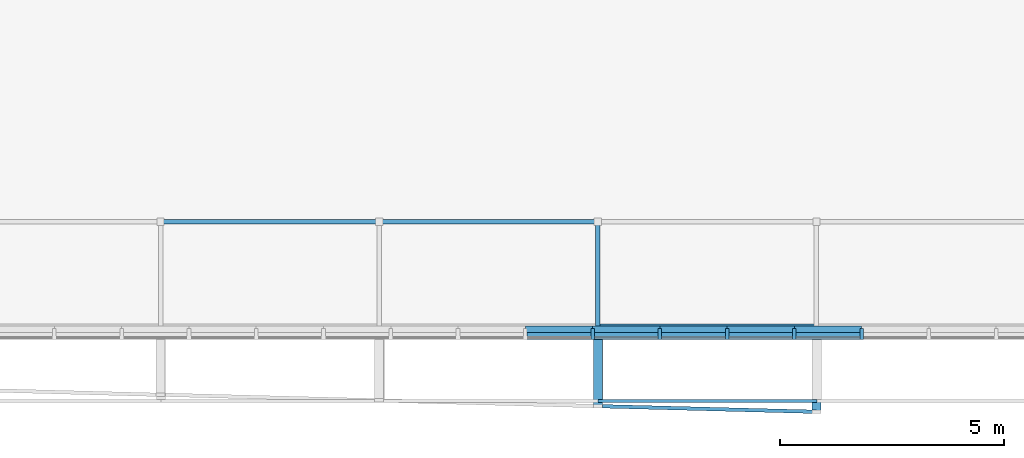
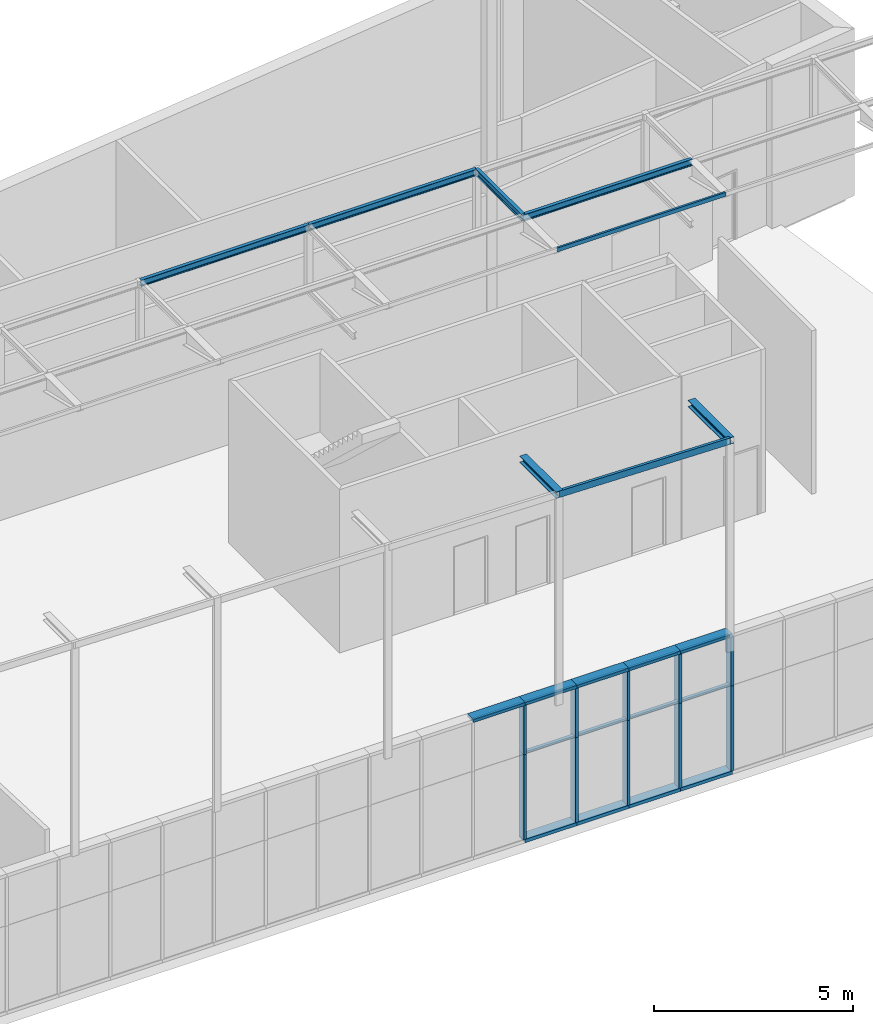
# One storey, part 13 of 40: 28 members, 8 beams, 1 element without a shape of its own.
"""IFC2X3 building model written with IfcOpenShell, lengths in metres."""

from ifc_helpers import new_model, entity, si_unit, converted_unit, money_unit, point, direction, frame, frame_2d, origin_with_axes, place, context, subcontext, project, spatial, polyline, circle_curve, parameter, trimmed, segment, composite_curve, outline, extrude, material, type_object, element, aggregate, save


model = new_model("IFC2X3")

# Units and contexts
model_context = context("Model", 3, precision=1e-05, world=origin_with_axes(), true_north=direction((0.0, 1.0)))
body_context = subcontext(model_context, "Body", "Model", "MODEL_VIEW")
ifc_project = project(units=[si_unit("LENGTHUNIT", "METRE"), si_unit("AREAUNIT", "SQUARE_METRE"), si_unit("VOLUMEUNIT", "CUBIC_METRE"), converted_unit("PLANEANGLEUNIT", "DEGREE", entity("IfcPlaneAngleMeasure", 0.0174532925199), si_unit("PLANEANGLEUNIT", "RADIAN"), dimensions=[0, 0, 0, 0, 0, 0, 0]), si_unit("SOLIDANGLEUNIT", "STERADIAN"), money_unit("EUR"), converted_unit("TIMEUNIT", "Year", entity("IfcTimeMeasure", 31556926.0), si_unit("TIMEUNIT", "SECOND"), dimensions=[0, 0, 0, 0, 0, 0, 0]), si_unit("MASSUNIT", "GRAM"), si_unit("THERMODYNAMICTEMPERATUREUNIT", "DEGREE_CELSIUS"), si_unit("LUMINOUSINTENSITYUNIT", "LUMEN")], contexts=[model_context])

# Site, building, storey
site_placement = place(None, origin_with_axes())
site = spatial("IfcSite", under=ifc_project, at=site_placement, Name="Undefined", CompositionType="ELEMENT")
building_placement = place(site_placement, origin_with_axes())
building = spatial("IfcBuilding", under=site, at=building_placement, Name="Undefined", CompositionType="ELEMENT")
storey_placement = place(building_placement, origin_with_axes())
storey = spatial("IfcBuildingStorey", under=building, at=storey_placement, Name="Rez de chauss\x8ee", CompositionType="ELEMENT", Elevation=0.0)

# Beams
ifc_material_1 = material(Name="STEEL/S235JRG2 3386696625")
beam_type_1 = type_object("IfcBeamType", Name="IPE200", PredefinedType="NOTDEFINED")
beam_1_placement = place(storey_placement, frame((37.3499991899, 2.32500000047, 19.025), z_axis=(0.0, 0.0, 1.0), x_axis=(0.0, -1.0, 0.0)))
element("IfcBeam", 1, at=beam_1_placement, inside=storey, type_object=beam_type_1, material=ifc_material_1, Name="Poutre", ObjectType="BEAM", context=body_context, shape_type="SweptSolid", body=[
    extrude(outline(composite_curve([segment(polyline([(0.05, -0.1), (0.05, -0.0915), (0.0147999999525, -0.0915)]), True, "CONTINUOUS"), segment(trimmed(circle_curve(frame_2d((0.0147999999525, -0.0795), x_axis=(-1.0, 0.0)), 0.012), [point((0.0147999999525, -0.0915)), parameter(90.0)], [point((0.0027999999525, -0.0795)), parameter(0.0)], False, "CARTESIAN"), True, "CONTINUOUS"), segment(polyline([(0.0027999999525, -0.0795), (0.0027999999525, 0.0795)]), True, "CONTINUOUS"), segment(trimmed(circle_curve(frame_2d((0.0147999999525, 0.0795), x_axis=(0.0, 1.0)), 0.012), [point((0.0027999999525, 0.0795)), parameter(90.0)], [point((0.0147999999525, 0.0915)), parameter(0.0)], False, "CARTESIAN"), True, "CONTINUOUS"), segment(polyline([(0.0147999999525, 0.0915), (0.05, 0.0915), (0.05, 0.1), (-0.05, 0.1), (-0.05, 0.0915), (-0.0147999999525, 0.0915)]), True, "CONTINUOUS"), segment(trimmed(circle_curve(frame_2d((-0.0147999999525, 0.0795), x_axis=(1.0, 0.0)), 0.012), [point((-0.0147999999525, 0.0915)), parameter(90.0)], [point((-0.0027999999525, 0.0795)), parameter(0.0)], False, "CARTESIAN"), True, "CONTINUOUS"), segment(polyline([(-0.0027999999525, 0.0795), (-0.0027999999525, -0.0795)]), True, "CONTINUOUS"), segment(trimmed(circle_curve(frame_2d((-0.0147999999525, -0.0795), x_axis=(0.0, -1.0)), 0.012), [point((-0.0027999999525, -0.0795)), parameter(90.0)], [point((-0.0147999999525, -0.0915)), parameter(0.0)], False, "CARTESIAN"), True, "CONTINUOUS"), segment(polyline([(-0.0147999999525, -0.0915), (-0.05, -0.0915), (-0.05, -0.1), (0.05, -0.1)]), True, "CONTINUOUS")], self_intersect=False)), frame((0.0, 4.87500081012, 0.0), z_axis=(0.0, -1.0, 0.0), x_axis=(1.0, 0.0, 0.0)), (0.0, 0.0, 1.0), 4.87500081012),
])
beam_2_placement = place(storey_placement, frame((47.0999995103, -1.01866231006e-08, 19.0250002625), z_axis=(0.0, 0.0, 1.0), x_axis=(1.0, 0.0, 0.0)))
element("IfcBeam", 2, at=beam_2_placement, inside=storey, type_object=beam_type_1, material=ifc_material_1, Name="Poutre", ObjectType="BEAM", context=body_context, shape_type="SweptSolid", body=[
    extrude(outline(composite_curve([segment(polyline([(0.05, -0.1), (0.05, -0.0915), (0.0147999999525, -0.0915)]), True, "CONTINUOUS"), segment(trimmed(circle_curve(frame_2d((0.0147999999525, -0.0795), x_axis=(-1.0, 0.0)), 0.012), [point((0.0147999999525, -0.0915)), parameter(90.0)], [point((0.0027999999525, -0.0795)), parameter(0.0)], False, "CARTESIAN"), True, "CONTINUOUS"), segment(polyline([(0.0027999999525, -0.0795), (0.0027999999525, 0.0795)]), True, "CONTINUOUS"), segment(trimmed(circle_curve(frame_2d((0.0147999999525, 0.0795), x_axis=(0.0, 1.0)), 0.012), [point((0.0027999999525, 0.0795)), parameter(90.0)], [point((0.0147999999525, 0.0915)), parameter(0.0)], False, "CARTESIAN"), True, "CONTINUOUS"), segment(polyline([(0.0147999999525, 0.0915), (0.05, 0.0915), (0.05, 0.1), (-0.05, 0.1), (-0.05, 0.0915), (-0.0147999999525, 0.0915)]), True, "CONTINUOUS"), segment(trimmed(circle_curve(frame_2d((-0.0147999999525, 0.0795), x_axis=(1.0, 0.0)), 0.012), [point((-0.0147999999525, 0.0915)), parameter(90.0)], [point((-0.0027999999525, 0.0795)), parameter(0.0)], False, "CARTESIAN"), True, "CONTINUOUS"), segment(polyline([(-0.0027999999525, 0.0795), (-0.0027999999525, -0.0795)]), True, "CONTINUOUS"), segment(trimmed(circle_curve(frame_2d((-0.0147999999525, -0.0795), x_axis=(0.0, -1.0)), 0.012), [point((-0.0027999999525, -0.0795)), parameter(90.0)], [point((-0.0147999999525, -0.0915)), parameter(0.0)], False, "CARTESIAN"), True, "CONTINUOUS"), segment(polyline([(-0.0147999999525, -0.0915), (-0.05, -0.0915), (-0.05, -0.1), (0.05, -0.1)]), True, "CONTINUOUS")], self_intersect=False)), frame((0.0, 2.32499999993, 0.0), z_axis=(0.0, -1.0, 0.0), x_axis=(1.0, 0.0, 0.0)), (0.0, 0.0, 1.0), 2.32499999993),
])
beam_3_placement = place(storey_placement, frame((42.2250000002, 2.32500000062, 19.025), z_axis=(0.0, 0.0, 1.0), x_axis=(0.0, -1.0, 0.0)))
element("IfcBeam", 3, at=beam_3_placement, inside=storey, type_object=beam_type_1, material=ifc_material_1, Name="Poutre", ObjectType="BEAM", context=body_context, shape_type="SweptSolid", body=[
    extrude(outline(composite_curve([segment(polyline([(0.05, -0.1), (0.05, -0.0915), (0.0147999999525, -0.0915)]), True, "CONTINUOUS"), segment(trimmed(circle_curve(frame_2d((0.0147999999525, -0.0795), x_axis=(-1.0, 0.0)), 0.012), [point((0.0147999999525, -0.0915)), parameter(90.0)], [point((0.0027999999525, -0.0795)), parameter(0.0)], False, "CARTESIAN"), True, "CONTINUOUS"), segment(polyline([(0.0027999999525, -0.0795), (0.0027999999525, 0.0795)]), True, "CONTINUOUS"), segment(trimmed(circle_curve(frame_2d((0.0147999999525, 0.0795), x_axis=(0.0, 1.0)), 0.012), [point((0.0027999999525, 0.0795)), parameter(90.0)], [point((0.0147999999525, 0.0915)), parameter(0.0)], False, "CARTESIAN"), True, "CONTINUOUS"), segment(polyline([(0.0147999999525, 0.0915), (0.05, 0.0915), (0.05, 0.1), (-0.05, 0.1), (-0.05, 0.0915), (-0.0147999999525, 0.0915)]), True, "CONTINUOUS"), segment(trimmed(circle_curve(frame_2d((-0.0147999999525, 0.0795), x_axis=(1.0, 0.0)), 0.012), [point((-0.0147999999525, 0.0915)), parameter(90.0)], [point((-0.0027999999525, 0.0795)), parameter(0.0)], False, "CARTESIAN"), True, "CONTINUOUS"), segment(polyline([(-0.0027999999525, 0.0795), (-0.0027999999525, -0.0795)]), True, "CONTINUOUS"), segment(trimmed(circle_curve(frame_2d((-0.0147999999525, -0.0795), x_axis=(0.0, -1.0)), 0.012), [point((-0.0027999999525, -0.0795)), parameter(90.0)], [point((-0.0147999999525, -0.0915)), parameter(0.0)], False, "CARTESIAN"), True, "CONTINUOUS"), segment(polyline([(-0.0147999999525, -0.0915), (-0.05, -0.0915), (-0.05, -0.1), (0.05, -0.1)]), True, "CONTINUOUS")], self_intersect=False)), frame((0.0, 4.87499999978, 0.0), z_axis=(0.0, -1.0, 0.0), x_axis=(1.0, 0.0, 0.0)), (0.0, 0.0, 1.0), 4.87499999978),
])
beam_4_placement = place(storey_placement, frame((47.1000001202, 8.34996902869e-10, 19.0250002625), z_axis=(0.0, 0.0, 1.0), x_axis=(0.0, -1.0, 0.0)))
element("IfcBeam", 4, at=beam_4_placement, inside=storey, type_object=beam_type_1, material=ifc_material_1, Name="Poutre", ObjectType="BEAM", context=body_context, shape_type="SweptSolid", body=[
    extrude(outline(composite_curve([segment(polyline([(0.05, -0.1), (0.05, -0.0915), (0.0147999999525, -0.0915)]), True, "CONTINUOUS"), segment(trimmed(circle_curve(frame_2d((0.0147999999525, -0.0795), x_axis=(-1.0, 0.0)), 0.012), [point((0.0147999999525, -0.0915)), parameter(90.0)], [point((0.0027999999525, -0.0795)), parameter(0.0)], False, "CARTESIAN"), True, "CONTINUOUS"), segment(polyline([(0.0027999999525, -0.0795), (0.0027999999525, 0.0795)]), True, "CONTINUOUS"), segment(trimmed(circle_curve(frame_2d((0.0147999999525, 0.0795), x_axis=(0.0, 1.0)), 0.012), [point((0.0027999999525, 0.0795)), parameter(90.0)], [point((0.0147999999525, 0.0915)), parameter(0.0)], False, "CARTESIAN"), True, "CONTINUOUS"), segment(polyline([(0.0147999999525, 0.0915), (0.05, 0.0915), (0.05, 0.1), (-0.05, 0.1), (-0.05, 0.0915), (-0.0147999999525, 0.0915)]), True, "CONTINUOUS"), segment(trimmed(circle_curve(frame_2d((-0.0147999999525, 0.0795), x_axis=(1.0, 0.0)), 0.012), [point((-0.0147999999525, 0.0915)), parameter(90.0)], [point((-0.0027999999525, 0.0795)), parameter(0.0)], False, "CARTESIAN"), True, "CONTINUOUS"), segment(polyline([(-0.0027999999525, 0.0795), (-0.0027999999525, -0.0795)]), True, "CONTINUOUS"), segment(trimmed(circle_curve(frame_2d((-0.0147999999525, -0.0795), x_axis=(0.0, -1.0)), 0.012), [point((-0.0027999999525, -0.0795)), parameter(90.0)], [point((-0.0147999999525, -0.0915)), parameter(0.0)], False, "CARTESIAN"), True, "CONTINUOUS"), segment(polyline([(-0.0147999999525, -0.0915), (-0.05, -0.0915), (-0.05, -0.1), (0.05, -0.1)]), True, "CONTINUOUS")], self_intersect=False)), frame((0.0, 4.87500048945, 0.0), z_axis=(0.0, -1.0, 0.0), x_axis=(1.0, 0.0, 0.0)), (0.0, 0.0, 1.0), 4.87500048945),
])
beam_type_2 = type_object("IfcBeamType", Name="UPE200", PredefinedType="NOTDEFINED")
beam_5_placement = place(storey_placement, frame((47.1010354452, -1.78515877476, 11.65), z_axis=(0.0, 0.0, 1.0), x_axis=(-0.0258861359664, -0.999664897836, 0.0)))
element("IfcBeam", 5, at=beam_5_placement, inside=storey, type_object=beam_type_2, material=ifc_material_1, Name="BEAM", ObjectType="BEAM", context=body_context, shape_type="SweptSolid", body=[
    extrude(outline(composite_curve([segment(polyline([(-0.04, -0.1), (0.04, -0.1), (0.04, -0.089), (-0.021, -0.089)]), True, "CONTINUOUS"), segment(trimmed(circle_curve(frame_2d((-0.021, -0.076), x_axis=(-1.0, 0.0)), 0.013), [point((-0.021, -0.089)), parameter(90.0)], [point((-0.034, -0.076)), parameter(0.0)], False, "CARTESIAN"), True, "CONTINUOUS"), segment(polyline([(-0.034, -0.076), (-0.034, 0.076)]), True, "CONTINUOUS"), segment(trimmed(circle_curve(frame_2d((-0.021, 0.076), x_axis=(0.0, 1.0)), 0.013), [point((-0.034, 0.076)), parameter(90.0)], [point((-0.021, 0.089)), parameter(0.0)], False, "CARTESIAN"), True, "CONTINUOUS"), segment(polyline([(-0.021, 0.089), (0.04, 0.089), (0.04, 0.1), (-0.04, 0.1), (-0.04, -0.1)]), True, "CONTINUOUS")], self_intersect=False)), frame((0.0, 4.87663417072, 0.0), z_axis=(0.0, -1.0, 0.0), x_axis=(-1.0, 0.0, 0.0)), (0.0, 0.0, 1.0), 4.87663417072),
])
beam_type_3 = type_object("IfcBeamType", Name="UPE120", PredefinedType="NOTDEFINED")
beam_6_placement = place(storey_placement, frame((47.109681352, -1.67000005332, 19.045), z_axis=(0.0, 0.0, 1.0), x_axis=(0.0, -1.0, 0.0)))
element("IfcBeam", 6, at=beam_6_placement, inside=storey, type_object=beam_type_3, material=ifc_material_1, Name="Poutre", ObjectType="BEAM", context=body_context, shape_type="SweptSolid", body=[
    extrude(outline(composite_curve([segment(polyline([(-0.03, -0.06), (0.03, -0.06), (0.03, -0.052), (-0.013, -0.052)]), True, "CONTINUOUS"), segment(trimmed(circle_curve(frame_2d((-0.013, -0.04), x_axis=(-1.0, 0.0)), 0.012), [point((-0.013, -0.052)), parameter(90.0)], [point((-0.025, -0.04)), parameter(0.0)], False, "CARTESIAN"), True, "CONTINUOUS"), segment(polyline([(-0.025, -0.04), (-0.025, 0.04)]), True, "CONTINUOUS"), segment(trimmed(circle_curve(frame_2d((-0.013, 0.04), x_axis=(0.0, 1.0)), 0.012), [point((-0.025, 0.04)), parameter(90.0)], [point((-0.013, 0.052)), parameter(0.0)], False, "CARTESIAN"), True, "CONTINUOUS"), segment(polyline([(-0.013, 0.052), (0.03, 0.052), (0.03, 0.06), (-0.03, 0.06), (-0.03, -0.06)]), True, "CONTINUOUS")], self_intersect=False)), frame((0.0, 4.87500048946, 0.0), z_axis=(0.0, -1.0, 0.0), x_axis=(-1.0, 0.0, 0.0)), (0.0, 0.0, 1.0), 4.87500048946),
])
beam_type_4 = type_object("IfcBeamType", Name="HEB200", PredefinedType="NOTDEFINED")
beam_7_placement = place(storey_placement, frame((51.9749999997, 9.78680692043e-10, 11.65), z_axis=(0.0, 0.0, 1.0), x_axis=(-1.0, 0.0, 0.0)))
element("IfcBeam", 7, at=beam_7_placement, inside=storey, type_object=beam_type_4, material=ifc_material_1, Name="BEAM", ObjectType="BEAM", context=body_context, shape_type="SweptSolid", body=[
    extrude(outline(composite_curve([segment(polyline([(0.1, -0.1), (0.1, -0.085), (0.0225, -0.085)]), True, "CONTINUOUS"), segment(trimmed(circle_curve(frame_2d((0.0225, -0.067), x_axis=(-1.0, 0.0)), 0.018), [point((0.0225, -0.085)), parameter(90.0)], [point((0.0045, -0.067)), parameter(0.0)], False, "CARTESIAN"), True, "CONTINUOUS"), segment(polyline([(0.0045, -0.067), (0.0045, 0.067)]), True, "CONTINUOUS"), segment(trimmed(circle_curve(frame_2d((0.0225, 0.067), x_axis=(0.0, 1.0)), 0.018), [point((0.0045, 0.067)), parameter(90.0)], [point((0.0225, 0.085)), parameter(0.0)], False, "CARTESIAN"), True, "CONTINUOUS"), segment(polyline([(0.0225, 0.085), (0.1, 0.085), (0.1, 0.1), (-0.1, 0.1), (-0.1, 0.085), (-0.0225, 0.085)]), True, "CONTINUOUS"), segment(trimmed(circle_curve(frame_2d((-0.0225, 0.067), x_axis=(1.0, 0.0)), 0.018), [point((-0.0225, 0.085)), parameter(90.0)], [point((-0.0045, 0.067)), parameter(0.0)], False, "CARTESIAN"), True, "CONTINUOUS"), segment(polyline([(-0.0045, 0.067), (-0.0045, -0.067)]), True, "CONTINUOUS"), segment(trimmed(circle_curve(frame_2d((-0.0225, -0.067), x_axis=(0.0, -1.0)), 0.018), [point((-0.0045, -0.067)), parameter(90.0)], [point((-0.0225, -0.085)), parameter(0.0)], False, "CARTESIAN"), True, "CONTINUOUS"), segment(polyline([(-0.0225, -0.085), (-0.1, -0.085), (-0.1, -0.1), (0.1, -0.1)]), True, "CONTINUOUS")], self_intersect=False)), frame((0.0, 1.95138258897, 0.0), z_axis=(0.0, -1.0, 0.0), x_axis=(1.0, 0.0, 0.0)), (0.0, 0.0, 1.0), 1.95138258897),
])
beam_8_placement = place(storey_placement, frame((47.0999999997, 8.35522762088e-10, 11.65), z_axis=(0.0, 0.0, 1.0), x_axis=(-1.0, 0.0, 0.0)))
element("IfcBeam", 8, at=beam_8_placement, inside=storey, type_object=beam_type_4, material=ifc_material_1, Name="BEAM", ObjectType="BEAM", context=body_context, shape_type="SweptSolid", body=[
    extrude(outline(composite_curve([segment(polyline([(0.1, -0.1), (0.1, -0.085), (0.0225, -0.085)]), True, "CONTINUOUS"), segment(trimmed(circle_curve(frame_2d((0.0225, -0.067), x_axis=(-1.0, 0.0)), 0.018), [point((0.0225, -0.085)), parameter(90.0)], [point((0.0045, -0.067)), parameter(0.0)], False, "CARTESIAN"), True, "CONTINUOUS"), segment(polyline([(0.0045, -0.067), (0.0045, 0.067)]), True, "CONTINUOUS"), segment(trimmed(circle_curve(frame_2d((0.0225, 0.067), x_axis=(0.0, 1.0)), 0.018), [point((0.0045, 0.067)), parameter(90.0)], [point((0.0225, 0.085)), parameter(0.0)], False, "CARTESIAN"), True, "CONTINUOUS"), segment(polyline([(0.0225, 0.085), (0.1, 0.085), (0.1, 0.1), (-0.1, 0.1), (-0.1, 0.085), (-0.0225, 0.085)]), True, "CONTINUOUS"), segment(trimmed(circle_curve(frame_2d((-0.0225, 0.067), x_axis=(1.0, 0.0)), 0.018), [point((-0.0225, 0.085)), parameter(90.0)], [point((-0.0045, 0.067)), parameter(0.0)], False, "CARTESIAN"), True, "CONTINUOUS"), segment(polyline([(-0.0045, 0.067), (-0.0045, -0.067)]), True, "CONTINUOUS"), segment(trimmed(circle_curve(frame_2d((-0.0225, -0.067), x_axis=(0.0, -1.0)), 0.018), [point((-0.0045, -0.067)), parameter(90.0)], [point((-0.0225, -0.085)), parameter(0.0)], False, "CARTESIAN"), True, "CONTINUOUS"), segment(polyline([(-0.0225, -0.085), (-0.1, -0.085), (-0.1, -0.1), (0.1, -0.1)]), True, "CONTINUOUS")], self_intersect=False)), frame((0.0, 1.82448235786, 0.0), z_axis=(0.0, -1.0, 0.0), x_axis=(1.0, 0.0, 0.0)), (0.0, 0.0, 1.0), 1.82448235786),
])

# Curtain wall, members
curtain_wall_type = type_object("IfcCurtainWallType", Name="Type de mur-rideau", PredefinedType="NOTDEFINED")
curtain_wall_placement = place(storey_placement, frame((61.0415862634, -0.249999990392, 0.1), z_axis=(0.0, 0.0, 1.0), x_axis=(1.0, 0.0, 0.0)))
curtain_wall = element("IfcCurtainWall", 9, at=curtain_wall_placement, inside=storey, type_object=curtain_wall_type, Name="CurtainWall_02", ObjectType="CURTAIN WALL")
ifc_material_2 = material(Name="25 % 359672764")
member_type_1 = type_object("IfcMemberType", Name="Cadre 100 x 300", PredefinedType="NOTDEFINED")
member_1_placement = place(curtain_wall_placement, frame((-11.0584137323, 1.90279010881e-07, 0.0), z_axis=(1.0, -1.72067183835e-08, 0.0), x_axis=(0.0, 0.0, 1.0)))
member_1 = element("IfcMember", 10, at=member_1_placement, type_object=member_type_1, material=ifc_material_2, Name="Frame-Bnd-912", context=body_context, shape_type="SweptSolid", body=[
    extrude(outline(polyline([(-0.25, -0.1), (0.05, -0.1), (0.05, 0.0), (-0.25, 0.0), (-0.25, -0.1)])), frame((0.0, 0.0, 0.0), z_axis=(0.0, 0.0, 1.0), x_axis=(0.0, 1.0, 0.0)), (0.0, 0.0, 1.0), 1.5),
])
member_2_placement = place(curtain_wall_placement, frame((-9.55841373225, 1.64468933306e-07, 0.0), z_axis=(1.0, -1.72067183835e-08, 0.0), x_axis=(0.0, 0.0, 1.0)))
member_2 = element("IfcMember", 11, at=member_2_placement, type_object=member_type_1, material=ifc_material_2, Name="Frame-Bnd-911", context=body_context, shape_type="SweptSolid", body=[
    extrude(outline(polyline([(-0.25, -0.1), (0.05, -0.1), (0.05, 0.0), (-0.25, 0.0), (-0.25, -0.1)])), frame((0.0, 0.0, 0.0), z_axis=(0.0, 0.0, 1.0), x_axis=(0.0, 1.0, 0.0)), (0.0, 0.0, 1.0), 1.5),
])
member_3_placement = place(curtain_wall_placement, frame((-14.0584137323, 2.41899166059e-07, 0.0), z_axis=(1.0, -1.72067183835e-08, 0.0), x_axis=(0.0, 0.0, 1.0)))
member_3 = element("IfcMember", 12, at=member_3_placement, type_object=member_type_1, material=ifc_material_2, Name="Frame-Bnd-914", context=body_context, shape_type="SweptSolid", body=[
    extrude(outline(polyline([(-0.25, -0.1), (0.05, -0.1), (0.05, 0.0), (-0.25, 0.0), (-0.25, -0.1)])), frame((0.0, 0.0, 0.0), z_axis=(0.0, 0.0, 1.0), x_axis=(0.0, 1.0, 0.0)), (0.0, 0.0, 1.0), 1.5),
])
member_4_placement = place(curtain_wall_placement, frame((-12.5584137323, 2.16089088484e-07, 0.0), z_axis=(1.0, -1.7206718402e-08, 0.0), x_axis=(0.0, 0.0, 1.0)))
member_4 = element("IfcMember", 13, at=member_4_placement, type_object=member_type_1, material=ifc_material_2, Name="Frame-Bnd-913", context=body_context, shape_type="SweptSolid", body=[
    extrude(outline(polyline([(-0.25, -0.1), (0.05, -0.1), (0.05, 0.0), (-0.25, 0.0), (-0.25, -0.1)])), frame((0.0, 0.0, 0.0), z_axis=(0.0, 0.0, 1.0), x_axis=(0.0, 1.0, 0.0)), (0.0, 0.0, 1.0), 1.5),
])
member_5_placement = place(curtain_wall_placement, frame((-8.05841373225, 1.38658855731e-07, 4.3), z_axis=(-1.0, 1.72067183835e-08, 0.0), x_axis=(0.0, 0.0, -1.0)))
member_5 = element("IfcMember", 14, at=member_5_placement, type_object=member_type_1, material=ifc_material_2, Name="Frame-Bnd-807", context=body_context, shape_type="SweptSolid", body=[
    extrude(outline(polyline([(0.25, 0.1), (-0.05, 0.1), (-0.05, 0.0), (0.25, 0.0), (0.25, 0.1)])), frame((0.0, 0.0, 0.0), z_axis=(0.0, 0.0, 1.0), x_axis=(0.0, -1.0, 0.0)), (0.0, 0.0, 1.0), 1.5),
])
member_6_placement = place(curtain_wall_placement, frame((-9.55841373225, 1.64468933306e-07, 4.3), z_axis=(-1.0, 1.72067183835e-08, 0.0), x_axis=(0.0, 0.0, -1.0)))
member_6 = element("IfcMember", 15, at=member_6_placement, type_object=member_type_1, material=ifc_material_2, Name="Frame-Bnd-806", context=body_context, shape_type="SweptSolid", body=[
    extrude(outline(polyline([(0.25, 0.1), (-0.05, 0.1), (-0.05, 0.0), (0.25, 0.0), (0.25, 0.1)])), frame((0.0, 0.0, 0.0), z_axis=(0.0, 0.0, 1.0), x_axis=(0.0, -1.0, 0.0)), (0.0, 0.0, 1.0), 1.5),
])
member_7_placement = place(curtain_wall_placement, frame((-11.0584137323, 1.90279010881e-07, 4.3), z_axis=(-1.0, 1.7206718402e-08, 0.0), x_axis=(0.0, 0.0, -1.0)))
member_7 = element("IfcMember", 16, at=member_7_placement, type_object=member_type_1, material=ifc_material_2, Name="Frame-Bnd-805", context=body_context, shape_type="SweptSolid", body=[
    extrude(outline(polyline([(0.25, 0.1), (-0.05, 0.1), (-0.05, 0.0), (0.25, 0.0), (0.25, 0.1)])), frame((0.0, 0.0, 0.0), z_axis=(0.0, 0.0, 1.0), x_axis=(0.0, -1.0, 0.0)), (0.0, 0.0, 1.0), 1.5),
])
member_8_placement = place(curtain_wall_placement, frame((-12.5584137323, 2.16089088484e-07, 4.3), z_axis=(-1.0, 1.72067183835e-08, 0.0), x_axis=(0.0, 0.0, -1.0)))
member_8 = element("IfcMember", 17, at=member_8_placement, type_object=member_type_1, material=ifc_material_2, Name="Frame-Bnd-804", context=body_context, shape_type="SweptSolid", body=[
    extrude(outline(polyline([(0.25, 0.1), (-0.05, 0.1), (-0.05, 0.0), (0.25, 0.0), (0.25, 0.1)])), frame((0.0, 0.0, 0.0), z_axis=(0.0, 0.0, 1.0), x_axis=(0.0, -1.0, 0.0)), (0.0, 0.0, 1.0), 1.5),
])
member_9_placement = place(curtain_wall_placement, frame((-14.0584137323, 2.41899166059e-07, 4.3), z_axis=(-1.0, 1.72067183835e-08, 0.0), x_axis=(0.0, 0.0, -1.0)))
member_9 = element("IfcMember", 18, at=member_9_placement, type_object=member_type_1, material=ifc_material_2, Name="Frame-Bnd-803", context=body_context, shape_type="SweptSolid", body=[
    extrude(outline(polyline([(0.25, 0.1), (-0.05, 0.1), (-0.05, 0.0), (0.25, 0.0), (0.25, 0.1)])), frame((0.0, 0.0, 0.0), z_axis=(0.0, 0.0, 1.0), x_axis=(0.0, -1.0, 0.0)), (0.0, 0.0, 1.0), 1.5),
])
member_type_2 = type_object("IfcMemberType", Name="Montant 80 x 250", PredefinedType="NOTDEFINED")
member_10_placement = place(curtain_wall_placement, frame((-14.0584137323, 2.41899166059e-07, 0.0), z_axis=(0.0, 0.0, 1.0), x_axis=(-1.0, 1.72067183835e-08, 0.0)))
member_10 = element("IfcMember", 19, at=member_10_placement, type_object=member_type_2, material=ifc_material_2, Name="Frame-Mll-283", context=body_context, shape_type="SweptSolid", body=[
    extrude(outline(polyline([(-0.0399999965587, 0.200000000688), (-0.0400000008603, -0.0499999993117), (0.0399999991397, -0.0500000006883), (0.0400000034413, 0.199999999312), (-0.0399999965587, 0.200000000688)])), frame((0.0, 0.0, 0.1), z_axis=(0.0, 0.0, 1.0), x_axis=(-1.0, -1.72067183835e-08, 0.0)), (0.0, 0.0, 1.0), 2.6),
])
member_11_placement = place(curtain_wall_placement, frame((-12.5584137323, 2.16089088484e-07, 0.0), z_axis=(0.0, 0.0, 1.0), x_axis=(-1.0, 1.72067183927e-08, 0.0)))
member_11 = element("IfcMember", 20, at=member_11_placement, type_object=member_type_2, material=ifc_material_2, Name="Frame-Mll-283", context=body_context, shape_type="SweptSolid", body=[
    extrude(outline(polyline([(-0.0399999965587, 0.200000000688), (-0.0400000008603, -0.0499999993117), (0.0399999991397, -0.0500000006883), (0.0400000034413, 0.199999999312), (-0.0399999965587, 0.200000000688)])), frame((0.0, 0.0, 0.1), z_axis=(0.0, 0.0, 1.0), x_axis=(-1.0, -1.72067183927e-08, 0.0)), (0.0, 0.0, 1.0), 2.6),
])
member_12_placement = place(curtain_wall_placement, frame((-11.0584137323, 1.90279010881e-07, 0.0), z_axis=(0.0, 0.0, 1.0), x_axis=(-1.0, 1.72067183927e-08, 0.0)))
member_12 = element("IfcMember", 21, at=member_12_placement, type_object=member_type_2, material=ifc_material_2, Name="Frame-Mll-283", context=body_context, shape_type="SweptSolid", body=[
    extrude(outline(polyline([(-0.0399999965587, 0.200000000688), (-0.0400000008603, -0.0499999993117), (0.0399999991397, -0.0500000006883), (0.0400000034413, 0.199999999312), (-0.0399999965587, 0.200000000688)])), frame((0.0, 0.0, 0.1), z_axis=(0.0, 0.0, 1.0), x_axis=(-1.0, -1.72067183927e-08, 0.0)), (0.0, 0.0, 1.0), 2.6),
])
member_13_placement = place(curtain_wall_placement, frame((-9.55841373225, 1.64468933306e-07, 0.0), z_axis=(0.0, 0.0, 1.0), x_axis=(-1.0, 1.72067183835e-08, 0.0)))
member_13 = element("IfcMember", 22, at=member_13_placement, type_object=member_type_2, material=ifc_material_2, Name="Frame-Mll-283", context=body_context, shape_type="SweptSolid", body=[
    extrude(outline(polyline([(-0.0399999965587, 0.200000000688), (-0.0400000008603, -0.0499999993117), (0.0399999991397, -0.0500000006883), (0.0400000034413, 0.199999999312), (-0.0399999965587, 0.200000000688)])), frame((0.0, 0.0, 0.1), z_axis=(0.0, 0.0, 1.0), x_axis=(-1.0, -1.72067183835e-08, 0.0)), (0.0, 0.0, 1.0), 2.6),
])
member_14_placement = place(curtain_wall_placement, frame((-8.05841373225, 1.38658855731e-07, 0.0), z_axis=(0.0, 0.0, 1.0), x_axis=(-1.0, 1.72067183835e-08, 0.0)))
member_14 = element("IfcMember", 23, at=member_14_placement, type_object=member_type_2, material=ifc_material_2, Name="Frame-Mll-283", context=body_context, shape_type="SweptSolid", body=[
    extrude(outline(polyline([(-0.0399999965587, 0.200000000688), (-0.0400000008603, -0.0499999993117), (0.0399999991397, -0.0500000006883), (0.0400000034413, 0.199999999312), (-0.0399999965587, 0.200000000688)])), frame((0.0, 0.0, 0.1), z_axis=(0.0, 0.0, 1.0), x_axis=(-1.0, -1.72067183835e-08, 0.0)), (0.0, 0.0, 1.0), 2.6),
])
member_15_placement = place(curtain_wall_placement, frame((-14.0584137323, 2.41899166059e-07, 2.7), z_axis=(0.0, 0.0, 1.0), x_axis=(-1.0, 1.72067183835e-08, 0.0)))
member_15 = element("IfcMember", 24, at=member_15_placement, type_object=member_type_2, material=ifc_material_2, Name="Frame-Mll-679", context=body_context, shape_type="SweptSolid", body=[
    extrude(outline(polyline([(-0.0399999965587, 0.200000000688), (-0.0400000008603, -0.0499999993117), (0.0399999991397, -0.0500000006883), (0.0400000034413, 0.199999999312), (-0.0399999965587, 0.200000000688)])), frame((0.0, 0.0, 0.0), z_axis=(0.0, 0.0, 1.0), x_axis=(-1.0, -1.72067183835e-08, 0.0)), (0.0, 0.0, 1.0), 1.5),
])
member_16_placement = place(curtain_wall_placement, frame((-12.5584137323, 2.16089088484e-07, 2.7), z_axis=(0.0, 0.0, 1.0), x_axis=(-1.0, 1.72067183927e-08, 0.0)))
member_16 = element("IfcMember", 25, at=member_16_placement, type_object=member_type_2, material=ifc_material_2, Name="Frame-Mll-680", context=body_context, shape_type="SweptSolid", body=[
    extrude(outline(polyline([(-0.0399999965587, 0.200000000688), (-0.0400000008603, -0.0499999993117), (0.0399999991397, -0.0500000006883), (0.0400000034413, 0.199999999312), (-0.0399999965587, 0.200000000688)])), frame((0.0, 0.0, 0.0), z_axis=(0.0, 0.0, 1.0), x_axis=(-1.0, -1.72067183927e-08, 0.0)), (0.0, 0.0, 1.0), 1.5),
])
member_17_placement = place(curtain_wall_placement, frame((-11.0584137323, 1.90279010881e-07, 2.7), z_axis=(0.0, 0.0, 1.0), x_axis=(-1.0, 1.72067183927e-08, 0.0)))
member_17 = element("IfcMember", 26, at=member_17_placement, type_object=member_type_2, material=ifc_material_2, Name="Frame-Mll-681", context=body_context, shape_type="SweptSolid", body=[
    extrude(outline(polyline([(-0.0399999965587, 0.200000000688), (-0.0400000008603, -0.0499999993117), (0.0399999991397, -0.0500000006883), (0.0400000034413, 0.199999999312), (-0.0399999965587, 0.200000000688)])), frame((0.0, 0.0, 0.0), z_axis=(0.0, 0.0, 1.0), x_axis=(-1.0, -1.72067183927e-08, 0.0)), (0.0, 0.0, 1.0), 1.5),
])
member_18_placement = place(curtain_wall_placement, frame((-9.55841373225, 1.64468933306e-07, 2.7), z_axis=(0.0, 0.0, 1.0), x_axis=(-1.0, 1.72067183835e-08, 0.0)))
member_18 = element("IfcMember", 27, at=member_18_placement, type_object=member_type_2, material=ifc_material_2, Name="Frame-Mll-682", context=body_context, shape_type="SweptSolid", body=[
    extrude(outline(polyline([(-0.0399999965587, 0.200000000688), (-0.0400000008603, -0.0499999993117), (0.0399999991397, -0.0500000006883), (0.0400000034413, 0.199999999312), (-0.0399999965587, 0.200000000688)])), frame((0.0, 0.0, 0.0), z_axis=(0.0, 0.0, 1.0), x_axis=(-1.0, -1.72067183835e-08, 0.0)), (0.0, 0.0, 1.0), 1.5),
])
member_19_placement = place(curtain_wall_placement, frame((-8.05841373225, 1.38658855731e-07, 2.7), z_axis=(0.0, 0.0, 1.0), x_axis=(-1.0, 1.72067183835e-08, 0.0)))
member_19 = element("IfcMember", 28, at=member_19_placement, type_object=member_type_2, material=ifc_material_2, Name="Frame-Mll-683", context=body_context, shape_type="SweptSolid", body=[
    extrude(outline(polyline([(-0.0399999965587, 0.200000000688), (-0.0400000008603, -0.0499999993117), (0.0399999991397, -0.0500000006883), (0.0400000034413, 0.199999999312), (-0.0399999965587, 0.200000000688)])), frame((0.0, 0.0, 0.0), z_axis=(0.0, 0.0, 1.0), x_axis=(-1.0, -1.72067183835e-08, 0.0)), (0.0, 0.0, 1.0), 1.5),
])
member_type_3 = type_object("IfcMemberType", Name="Traverse 60 x 100", PredefinedType="NOTDEFINED")
member_20_placement = place(curtain_wall_placement, frame((-14.0584137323, 2.41899166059e-07, 2.7), z_axis=(1.0, -1.72067183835e-08, 0.0), x_axis=(0.0, 0.0, 1.0)))
member_20 = element("IfcMember", 29, at=member_20_placement, type_object=member_type_3, material=ifc_material_2, Name="Frame-Trs-922", context=body_context, shape_type="SweptSolid", body=[
    extrude(outline(polyline([(-0.11, -0.03), (-0.01, -0.03), (-0.01, 0.03), (-0.11, 0.03), (-0.11, -0.03)])), frame((0.0, 0.0, 0.04), z_axis=(0.0, 0.0, 1.0), x_axis=(0.0, 1.0, 0.0)), (0.0, 0.0, 1.0), 1.42),
])
member_21_placement = place(curtain_wall_placement, frame((-12.5584137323, 2.16089088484e-07, 2.7), z_axis=(1.0, -1.7206718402e-08, 0.0), x_axis=(0.0, 0.0, 1.0)))
member_21 = element("IfcMember", 30, at=member_21_placement, type_object=member_type_3, material=ifc_material_2, Name="Frame-Trs-922", context=body_context, shape_type="SweptSolid", body=[
    extrude(outline(polyline([(-0.11, -0.03), (-0.01, -0.03), (-0.01, 0.03), (-0.11, 0.03), (-0.11, -0.03)])), frame((0.0, 0.0, 0.04), z_axis=(0.0, 0.0, 1.0), x_axis=(0.0, 1.0, 0.0)), (0.0, 0.0, 1.0), 1.42),
])
member_22_placement = place(curtain_wall_placement, frame((-11.0584137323, 1.90279010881e-07, 2.7), z_axis=(1.0, -1.72067183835e-08, 0.0), x_axis=(0.0, 0.0, 1.0)))
member_22 = element("IfcMember", 31, at=member_22_placement, type_object=member_type_3, material=ifc_material_2, Name="Frame-Trs-922", context=body_context, shape_type="SweptSolid", body=[
    extrude(outline(polyline([(-0.11, -0.03), (-0.01, -0.03), (-0.01, 0.03), (-0.11, 0.03), (-0.11, -0.03)])), frame((0.0, 0.0, 0.04), z_axis=(0.0, 0.0, 1.0), x_axis=(0.0, 1.0, 0.0)), (0.0, 0.0, 1.0), 1.42),
])
member_23_placement = place(curtain_wall_placement, frame((-9.55841373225, 1.64468933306e-07, 2.7), z_axis=(1.0, -1.72067183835e-08, 0.0), x_axis=(0.0, 0.0, 1.0)))
member_23 = element("IfcMember", 32, at=member_23_placement, type_object=member_type_3, material=ifc_material_2, Name="Frame-Trs-922", context=body_context, shape_type="SweptSolid", body=[
    extrude(outline(polyline([(-0.11, -0.03), (-0.01, -0.03), (-0.01, 0.03), (-0.11, 0.03), (-0.11, -0.03)])), frame((0.0, 0.0, 0.04), z_axis=(0.0, 0.0, 1.0), x_axis=(0.0, 1.0, 0.0)), (0.0, 0.0, 1.0), 1.42),
])
member_24_placement = place(curtain_wall_placement, frame((-15.5584137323, 2.67709243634e-07, 4.2), z_axis=(1.0, -1.72067183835e-08, 0.0), x_axis=(0.0, 0.0, 1.0)))
member_24 = element("IfcMember", 33, at=member_24_placement, type_object=member_type_3, material=ifc_material_2, Name="Frame-Trs-227", context=body_context, shape_type="SweptSolid", body=[
    extrude(outline(polyline([(-0.11, -0.03), (-0.01, -0.03), (-0.01, 0.03), (-0.11, 0.03), (-0.11, -0.03)])), frame((0.0, 0.0, 0.04), z_axis=(0.0, 0.0, 1.0), x_axis=(0.0, 1.0, 0.0)), (0.0, 0.0, 1.0), 1.42),
])
member_25_placement = place(curtain_wall_placement, frame((-14.0584137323, 2.41899166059e-07, 4.2), z_axis=(1.0, -1.72067183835e-08, 0.0), x_axis=(0.0, 0.0, 1.0)))
member_25 = element("IfcMember", 34, at=member_25_placement, type_object=member_type_3, material=ifc_material_2, Name="Frame-Trs-227", context=body_context, shape_type="SweptSolid", body=[
    extrude(outline(polyline([(-0.11, -0.03), (-0.01, -0.03), (-0.01, 0.03), (-0.11, 0.03), (-0.11, -0.03)])), frame((0.0, 0.0, 0.04), z_axis=(0.0, 0.0, 1.0), x_axis=(0.0, 1.0, 0.0)), (0.0, 0.0, 1.0), 1.42),
])
member_26_placement = place(curtain_wall_placement, frame((-12.5584137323, 2.16089088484e-07, 4.2), z_axis=(1.0, -1.7206718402e-08, 0.0), x_axis=(0.0, 0.0, 1.0)))
member_26 = element("IfcMember", 35, at=member_26_placement, type_object=member_type_3, material=ifc_material_2, Name="Frame-Trs-227", context=body_context, shape_type="SweptSolid", body=[
    extrude(outline(polyline([(-0.11, -0.03), (-0.01, -0.03), (-0.01, 0.03), (-0.11, 0.03), (-0.11, -0.03)])), frame((0.0, 0.0, 0.04), z_axis=(0.0, 0.0, 1.0), x_axis=(0.0, 1.0, 0.0)), (0.0, 0.0, 1.0), 1.42),
])
member_27_placement = place(curtain_wall_placement, frame((-11.0584137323, 1.90279010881e-07, 4.2), z_axis=(1.0, -1.72067183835e-08, 0.0), x_axis=(0.0, 0.0, 1.0)))
member_27 = element("IfcMember", 36, at=member_27_placement, type_object=member_type_3, material=ifc_material_2, Name="Frame-Trs-227", context=body_context, shape_type="SweptSolid", body=[
    extrude(outline(polyline([(-0.11, -0.03), (-0.01, -0.03), (-0.01, 0.03), (-0.11, 0.03), (-0.11, -0.03)])), frame((0.0, 0.0, 0.04), z_axis=(0.0, 0.0, 1.0), x_axis=(0.0, 1.0, 0.0)), (0.0, 0.0, 1.0), 1.42),
])
member_28_placement = place(curtain_wall_placement, frame((-9.55841373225, 1.64468933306e-07, 4.2), z_axis=(1.0, -1.72067183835e-08, 0.0), x_axis=(0.0, 0.0, 1.0)))
member_28 = element("IfcMember", 37, at=member_28_placement, type_object=member_type_3, material=ifc_material_2, Name="Frame-Trs-227", context=body_context, shape_type="SweptSolid", body=[
    extrude(outline(polyline([(-0.11, -0.03), (-0.01, -0.03), (-0.01, 0.03), (-0.11, 0.03), (-0.11, -0.03)])), frame((0.0, 0.0, 0.04), z_axis=(0.0, 0.0, 1.0), x_axis=(0.0, 1.0, 0.0)), (0.0, 0.0, 1.0), 1.42),
])
aggregate(curtain_wall, [member_1, member_2, member_10, member_11, member_12, member_3, member_13, member_14, member_4, member_20, member_21, member_22, member_23, member_15, member_16, member_17, member_18, member_19, member_24, member_25, member_26, member_27, member_28, member_5, member_6, member_7, member_8, member_9])

save(model, "model.ifc")
